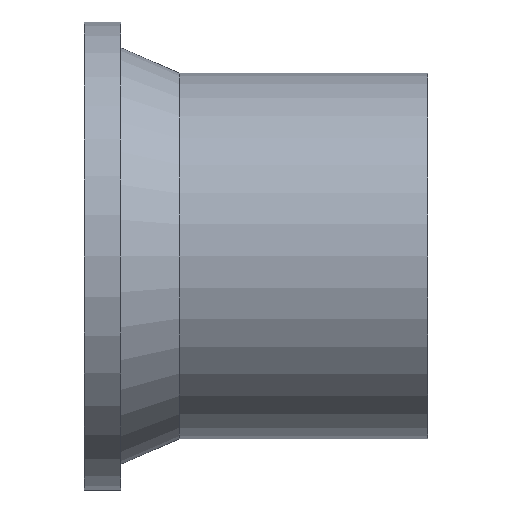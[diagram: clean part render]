
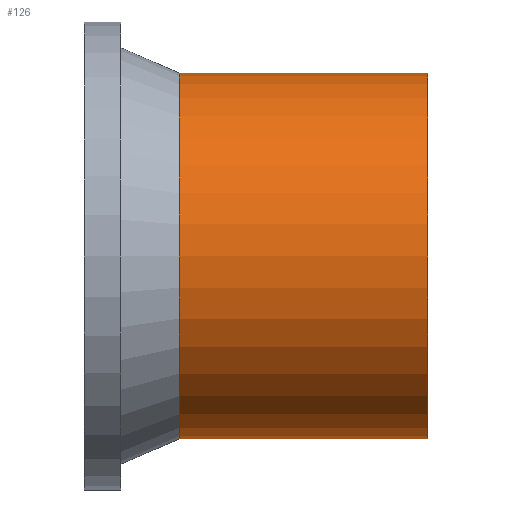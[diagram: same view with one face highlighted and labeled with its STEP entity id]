
A CAD part, front view. The second image highlights one B-rep face of the part: STEP entity #126.
In plain terms, the highlighted cylindrical face has radius 125 mm (diameter 250 mm), a full revolution.
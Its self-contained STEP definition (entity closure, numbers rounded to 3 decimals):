
#77=CARTESIAN_POINT('',(65.,125.,0.));
#78=VERTEX_POINT('',#77);
#79=CARTESIAN_POINT('',(65.,0.,0.));
#80=DIRECTION('',(1.,0.,0.));
#81=DIRECTION('',(0.,1.,0.));
#82=AXIS2_PLACEMENT_3D('',#79,#80,#81);
#83=CIRCLE('',#82,125.);
#84=EDGE_CURVE('',#78,#78,#83,.T.);
#102=CARTESIAN_POINT('',(235.,125.,0.));
#103=VERTEX_POINT('',#102);
#104=CARTESIAN_POINT('',(235.,0.,0.));
#105=DIRECTION('',(1.,0.,0.));
#106=DIRECTION('',(0.,1.,0.));
#107=AXIS2_PLACEMENT_3D('',#104,#105,#106);
#108=CIRCLE('',#107,125.);
#109=EDGE_CURVE('',#103,#103,#108,.T.);
#110=ORIENTED_EDGE('',*,*,#109,.F.);
#111=CARTESIAN_POINT('',(150.,125.,0.));
#112=DIRECTION('',(1.,0.,0.));
#113=VECTOR('',#112,125.);
#114=LINE('',#111,#113);
#115=EDGE_CURVE('',#78,#103,#114,.T.);
#116=ORIENTED_EDGE('',*,*,#115,.F.);
#117=ORIENTED_EDGE('',*,*,#84,.T.);
#118=ORIENTED_EDGE('',*,*,#115,.T.);
#119=EDGE_LOOP('',(#110,#116,#117,#118));
#120=FACE_OUTER_BOUND('',#119,.T.);
#121=CARTESIAN_POINT('',(150.,0.,0.));
#122=DIRECTION('',(1.,0.,0.));
#123=DIRECTION('',(0.,1.,0.));
#124=AXIS2_PLACEMENT_3D('',#121,#122,#123);
#125=CYLINDRICAL_SURFACE('',#124,125.);
#126=ADVANCED_FACE('',(#120),#125,.T.);
